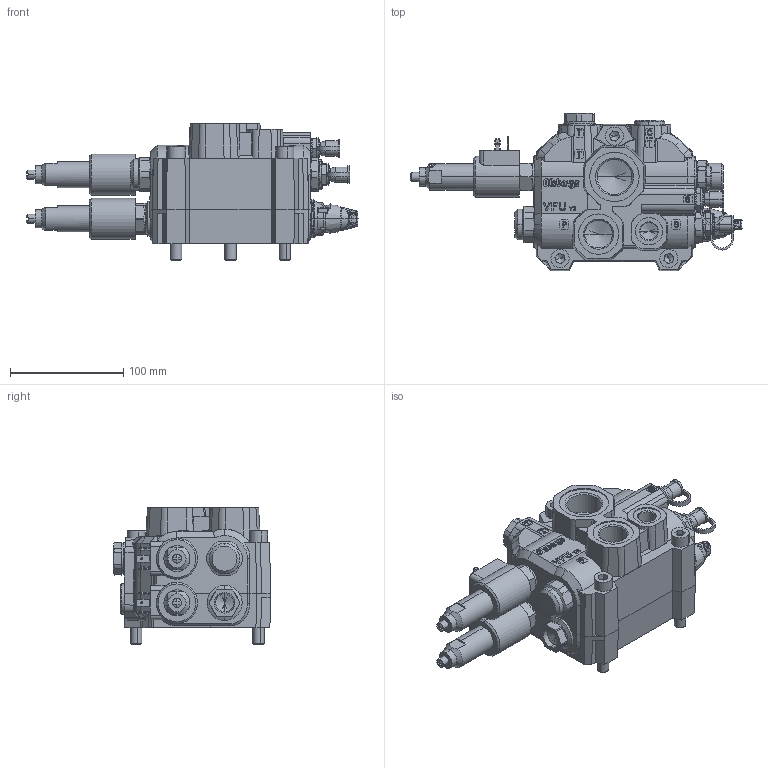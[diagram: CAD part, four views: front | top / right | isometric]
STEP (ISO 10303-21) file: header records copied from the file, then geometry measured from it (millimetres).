
FILE_DESCRIPTION (( 'STEP AP203' ), '1' );
FILE_NAME ('S-V3682.STEP', '2018-05-23T06:26:27', ( '' ), ( '' ), 'SwSTEP 2.0', 'SolidWorks 2018', '' );
FILE_SCHEMA (( 'CONFIG_CONTROL_DESIGN' ));
Products named in the file (1): S-V3682
Bounding box: 292.84 x 138.53 x 120.6 mm (x, y, z)
Surface area: 201372.7 mm2 (no closed solid volume)
Topology: 0 solids, 27 shells, 2624 faces, 6505 edges, 3947 vertices
Faces by surface type: plane 961, cylinder 640, bspline 565, cone 338, torus 94, sphere 26
Entity records: 101676 total; most frequent: CARTESIAN_POINT 45318, ORIENTED_EDGE 12670, DIRECTION 10255, EDGE_CURVE 6411, VERTEX_POINT 3947, AXIS2_PLACEMENT_3D 3734, EDGE_LOOP 2787, VECTOR 2787
